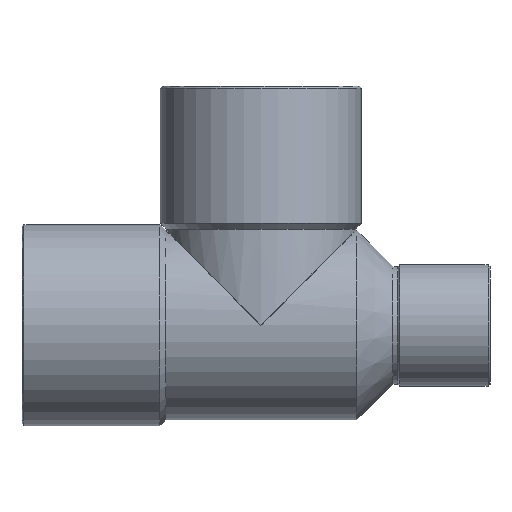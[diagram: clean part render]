
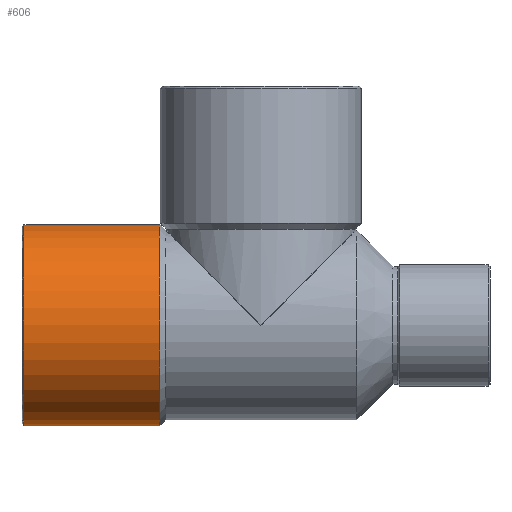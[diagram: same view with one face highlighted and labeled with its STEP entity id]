
A CAD part, top view. The second image highlights one B-rep face of the part: STEP entity #606.
In plain terms, the highlighted cylindrical face has radius 10.1 mm (diameter 20.2 mm), a partial arc.
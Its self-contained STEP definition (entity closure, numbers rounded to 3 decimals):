
#166=CARTESIAN_POINT('',(-10.143,10.1,0.0));
#167=VERTEX_POINT('',#166);
#174=CARTESIAN_POINT('',(-10.143,-10.1,0.));
#175=VERTEX_POINT('',#174);
#176=CARTESIAN_POINT('',(-10.143,0.0,0.0));
#177=DIRECTION('',(1.0,0.0,0.0));
#178=DIRECTION('',(0.0,1.0,0.0));
#179=AXIS2_PLACEMENT_3D('',#176,#177,#178);
#180=CIRCLE('',#179,10.1);
#181=EDGE_CURVE('',#167,#175,#180,.T.);
#575=CARTESIAN_POINT('',(-17.071,0.0,0.0));
#576=DIRECTION('',(1.0,0.0,0.0));
#577=DIRECTION('',(0.0,1.0,0.0));
#578=AXIS2_PLACEMENT_3D('',#575,#576,#577);
#579=CYLINDRICAL_SURFACE('',#578,10.1);
#580=CARTESIAN_POINT('',(-23.8,10.1,0.));
#581=VERTEX_POINT('',#580);
#582=CARTESIAN_POINT('',(-23.8,10.1,0.));
#583=DIRECTION('',(1.0,0.0,0.0));
#584=VECTOR('',#583,13.657);
#585=LINE('',#582,#584);
#586=EDGE_CURVE('',#581,#167,#585,.T.);
#587=ORIENTED_EDGE('',*,*,#586,.F.);
#588=CARTESIAN_POINT('',(-23.8,-10.1,0.));
#589=VERTEX_POINT('',#588);
#590=CARTESIAN_POINT('',(-23.8,0.0,0.0));
#591=DIRECTION('',(-1.0,0.0,0.0));
#592=DIRECTION('',(0.0,-1.0,0.0));
#593=AXIS2_PLACEMENT_3D('',#590,#591,#592);
#594=CIRCLE('',#593,10.1);
#595=EDGE_CURVE('',#589,#581,#594,.T.);
#596=ORIENTED_EDGE('',*,*,#595,.F.);
#597=CARTESIAN_POINT('',(-10.143,-10.1,0.));
#598=DIRECTION('',(-1.0,0.0,0.0));
#599=VECTOR('',#598,13.657);
#600=LINE('',#597,#599);
#601=EDGE_CURVE('',#175,#589,#600,.T.);
#602=ORIENTED_EDGE('',*,*,#601,.F.);
#603=ORIENTED_EDGE('',*,*,#181,.F.);
#604=EDGE_LOOP('',(#587,#596,#602,#603));
#605=FACE_OUTER_BOUND('',#604,.T.);
#606=ADVANCED_FACE('',(#605),#579,.T.);
